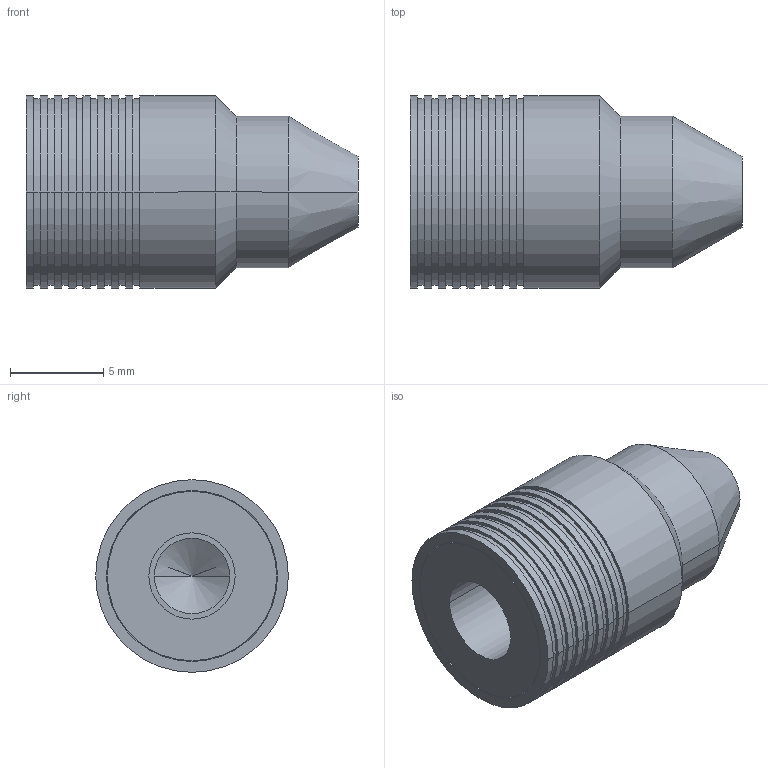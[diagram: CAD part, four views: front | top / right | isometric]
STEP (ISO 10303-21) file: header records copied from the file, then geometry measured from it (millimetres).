
FILE_DESCRIPTION(('CoCreate Modeling STEP Export'),'2;1');
FILE_NAME('PLRA4060010A.stp','2012-01-10T10:23:08',(''),(''),'CoCreate Modeling STEP processor for AP214 (Solid Model)','CoCreate Modeling 17.0 01-Apr-2010 (C) Parametric Technology GmbH','');
FILE_SCHEMA(('AUTOMOTIVE_DESIGN { 1 0 10303 214 1 1 1 1 }'));
Length unit declared in the file: millimetre
Products named in the file (1): PLRA4060010A
Bounding box: 17.78 x 10.31 x 10.31 mm (x, y, z)
Volume: 934.9 mm3; surface area: 918.4 mm2
Topology: 1 solids, 1 shells, 70 faces, 149 edges, 98 vertices
Faces by surface type: cylinder 42, plane 20, cone 8
Entity records: 1808 total; most frequent: ORIENTED_EDGE 294, CARTESIAN_POINT 230, DIRECTION 214, EDGE_CURVE 147, VERTEX_POINT 98, EDGE_LOOP 89, AXIS2_PLACEMENT_3D 82, FACE_OUTER_BOUND 70
